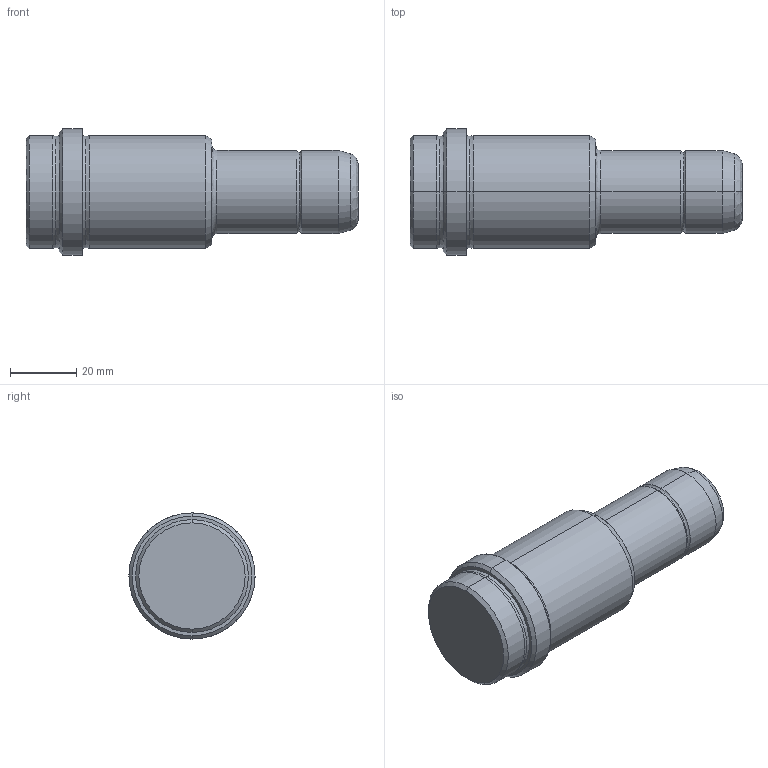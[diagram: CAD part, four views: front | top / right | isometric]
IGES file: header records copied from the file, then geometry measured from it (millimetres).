
Start section: START RECORD GO HERE.
Global section: file name: 357-25X56X100.igs; native system: DASSAULT SYSTEMES CATIA V5 R20 - www.3ds.com; preprocessor: CATIA Version 5 Release 20 ; author: Utente; organization: NB04-ASUS; date: 20210814.112233; units: millimetre
Bounding box: 100 x 38 x 38 mm (x, y, z)
Surface area: 11372.1 mm2 (no closed solid volume)
Topology: 0 solids, 0 shells, 39 faces, 224 edges, 224 vertices
Faces by surface type: revolution 34, plane 5
